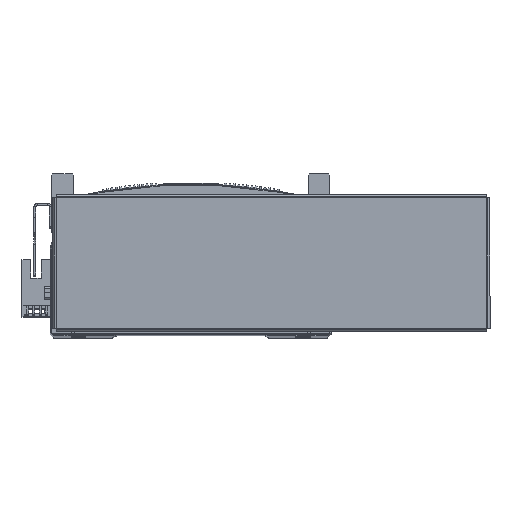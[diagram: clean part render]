
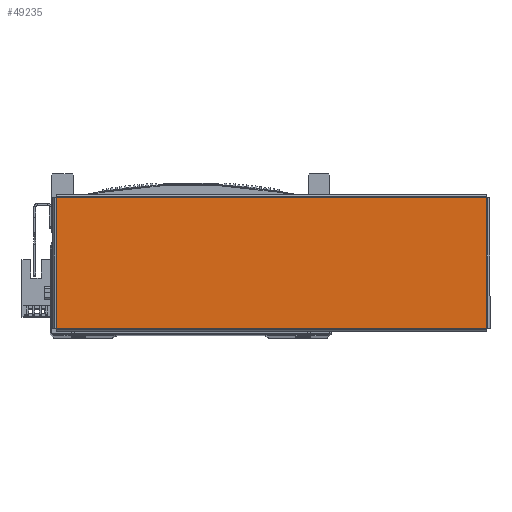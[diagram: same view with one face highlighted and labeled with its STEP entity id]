
A CAD part, top view. The second image highlights one B-rep face of the part: STEP entity #49235.
In plain terms, the highlighted planar face has unit normal (0, 0, 1) as drawn and (0, -1, 0) by its records, which use the part's own axes.
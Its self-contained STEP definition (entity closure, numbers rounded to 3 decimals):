
#1102 = AXIS2_PLACEMENT_3D ( 'NONE', #37557, #37567, #37538 ) ;
#2766 = EDGE_CURVE ( 'NONE', #12259, #12278, #21181, .T. ) ;
#2800 = EDGE_CURVE ( 'NONE', #12278, #12265, #21210, .T. ) ;
#2866 = EDGE_CURVE ( 'NONE', #12265, #12292, #21324, .T. ) ;
#2881 = EDGE_CURVE ( 'NONE', #12292, #12259, #21351, .T. ) ;
#12259 = VERTEX_POINT ( 'NONE', #54236 ) ;
#12265 = VERTEX_POINT ( 'NONE', #54206 ) ;
#12278 = VERTEX_POINT ( 'NONE', #54150 ) ;
#12292 = VERTEX_POINT ( 'NONE', #54215 ) ;
#16068 = FACE_OUTER_BOUND ( 'NONE', #34377, .T. ) ;
#19716 = CARTESIAN_POINT ( 'NONE',  ( -103.513, -1., 31.393 ) ) ;
#19718 = DIRECTION ( 'NONE',  ( 0., 0., -1. ) ) ;
#19894 = CARTESIAN_POINT ( 'NONE',  ( -103.543, -1., -31.363 ) ) ;
#19991 = DIRECTION ( 'NONE',  ( 1., 0., 0. ) ) ;
#21181 = LINE ( 'NONE', #36653, #21252 ) ;
#21210 = LINE ( 'NONE', #36674, #21214 ) ;
#21214 = VECTOR ( 'NONE', #36717, 1000. ) ;
#21252 = VECTOR ( 'NONE', #36631, 1000. ) ;
#21324 = LINE ( 'NONE', #19716, #21359 ) ;
#21342 = VECTOR ( 'NONE', #19991, 1000. ) ;
#21351 = LINE ( 'NONE', #19894, #21342 ) ;
#21359 = VECTOR ( 'NONE', #19718, 1000. ) ;
#34377 = EDGE_LOOP ( 'NONE', ( #47829, #47837, #47853, #47979 ) ) ;
#36631 = DIRECTION ( 'NONE',  ( 0., 0., 1. ) ) ;
#36653 = CARTESIAN_POINT ( 'NONE',  ( 103.513, -1., -31.393 ) ) ;
#36674 = CARTESIAN_POINT ( 'NONE',  ( 103.543, -1., 31.363 ) ) ;
#36717 = DIRECTION ( 'NONE',  ( -1., 0., 0. ) ) ;
#37538 = DIRECTION ( 'NONE',  ( 0., 0., 1. ) ) ;
#37557 = CARTESIAN_POINT ( 'NONE',  ( 0., -1., 0. ) ) ;
#37567 = DIRECTION ( 'NONE',  ( 0., 1., 0. ) ) ;
#37574 = PLANE ( 'NONE',  #1102 ) ;
#47829 = ORIENTED_EDGE ( 'NONE', *, *, #2800, .T. ) ;
#47837 = ORIENTED_EDGE ( 'NONE', *, *, #2866, .T. ) ;
#47853 = ORIENTED_EDGE ( 'NONE', *, *, #2881, .T. ) ;
#47979 = ORIENTED_EDGE ( 'NONE', *, *, #2766, .T. ) ;
#49235 = ADVANCED_FACE ( 'NONE', ( #16068 ), #37574, .F. ) ;
#54150 = CARTESIAN_POINT ( 'NONE',  ( 103.513, -1., 31.363 ) ) ;
#54206 = CARTESIAN_POINT ( 'NONE',  ( -103.513, -1., 31.363 ) ) ;
#54215 = CARTESIAN_POINT ( 'NONE',  ( -103.513, -1., -31.363 ) ) ;
#54236 = CARTESIAN_POINT ( 'NONE',  ( 103.513, -1., -31.363 ) ) ;
